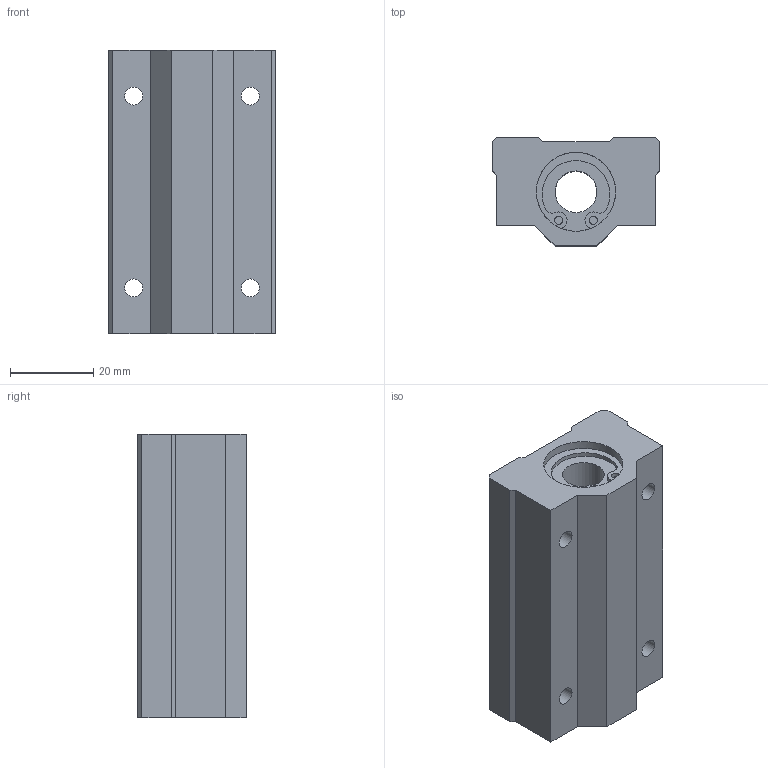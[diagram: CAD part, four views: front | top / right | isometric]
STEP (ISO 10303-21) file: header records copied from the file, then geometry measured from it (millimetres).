
FILE_DESCRIPTION(('STEP AP203'),'1');
FILE_NAME('//192.168.1.1/share/s-4 技術開発/s-4-4_CAD/s-4-4-3_見直し済み/008 修正済み/LC-L/LC-L_TOP/LC-10VLUU.step','2022-05-19T01:19:05',(' '),(' '),'Spatial InterOp 3D',' ',' ');
FILE_SCHEMA(('CONFIG_CONTROL_DESIGN'));
Length unit declared in the file: millimetre
Products named in the file (1): 1
Bounding box: 40 x 26 x 68 mm (x, y, z)
Volume: 51673.5 mm3; surface area: 13409.6 mm2
Topology: 1 solids, 1 shells, 53 faces, 135 edges, 90 vertices
Faces by surface type: plane 28, cylinder 25
Full cylindrical faces by diameter (mm): 2 x4, 4.3 x8, 10 x1, 19 x2
Entity records: 1552 total; most frequent: DIRECTION 270, CARTESIAN_POINT 252, ORIENTED_EDGE 228, EDGE_CURVE 114, AXIS2_PLACEMENT_3D 102, EDGE_LOOP 84, VERTEX_POINT 84, FACE_OUTER_BOUND 68
